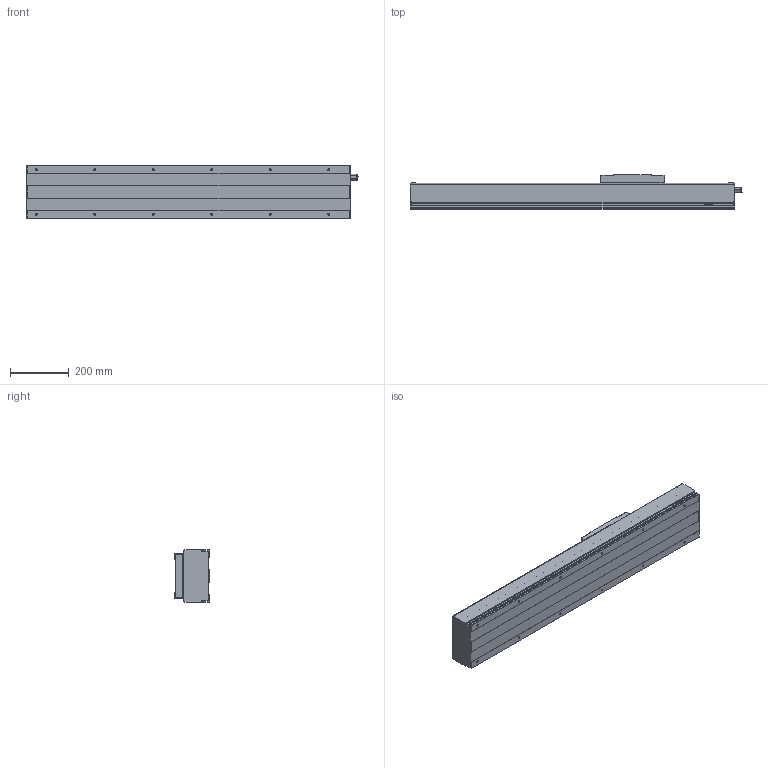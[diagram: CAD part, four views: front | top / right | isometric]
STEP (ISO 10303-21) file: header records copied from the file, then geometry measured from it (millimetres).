
FILE_DESCRIPTION(/* description */ (''),/* implementation_level */ '2;1');
FILE_NAME(/* name */ 'D:\混合母檔20191031\混和母檔\混和母檔\bin\Debug\Download\3D\KS180-20C-600AFI\KS180-20C-600AFI.stp',/* time_stamp */ '2019-11-04T16:20:26+08:00',/* author */ ('user'),/* organization */ (''),/* preprocessor_version */ 'ST-DEVELOPER v16.13',/* originating_system */ 'Autodesk Inventor 2018',/* authorisation */ '');
FILE_SCHEMA (('AUTOMOTIVE_DESIGN { 1 0 10303 214 3 1 1 }'));
Length unit declared in the file: millimetre
Products named in the file (3): KS180-20C-600AFI; KS180-FI; KS180-SL
Assembly tree (2 placements, depth 2):
  KS180-20C-600AFI
    KS180-FI
    KS180-SL
Bounding box: 1134.5 x 118 x 180 mm (x, y, z)
Volume: 6611129.9 mm3; surface area: 1399157.9 mm2
Topology: 4 solids, 8 shells, 734 faces, 1955 edges, 1275 vertices
Faces by surface type: plane 408, bspline 136, cylinder 86, cone 84, torus 16, sphere 4
Full cylindrical faces by diameter (mm): 3.571 x4, 4 x4, 4.134 x4, 4.5 x4, 6 x6, 6.647 x12, 8 x6, 8.016 x1, 8.4 x4, 9.4 x4, 12 x2, 13.1 x1, 15 x1, 18.75 x2, 46 x1, 50 x1
Entity records: 26432 total; most frequent: CARTESIAN_POINT 9330, ORIENTED_EDGE 3668, DIRECTION 3067, EDGE_CURVE 1833, VERTEX_POINT 1250, LINE 1173, VECTOR 1173, AXIS2_PLACEMENT_3D 947
